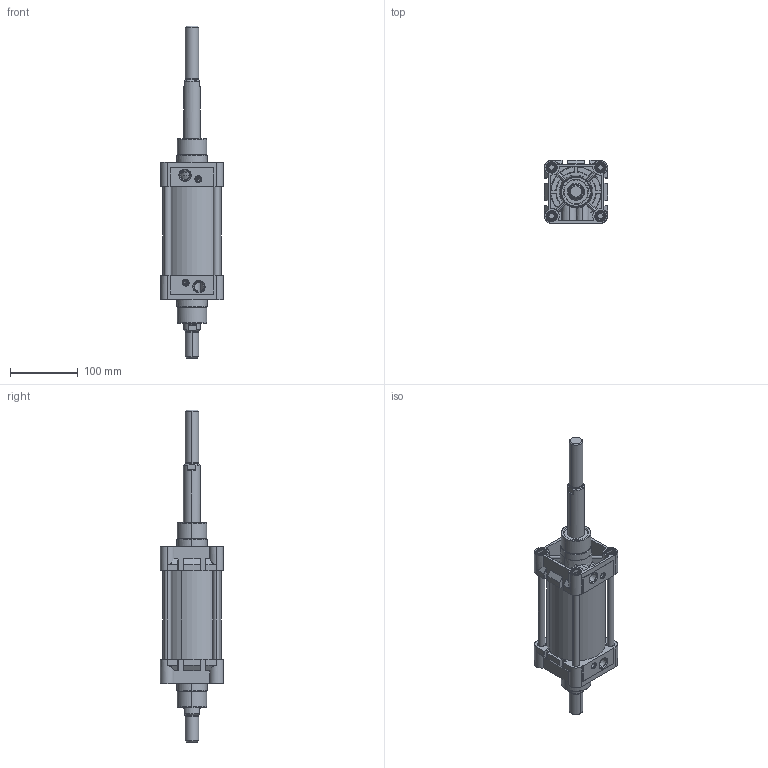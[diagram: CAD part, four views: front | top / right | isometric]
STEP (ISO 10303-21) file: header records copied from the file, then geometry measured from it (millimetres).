
FILE_DESCRIPTION (( 'STEP AP203' ), '1' );
FILE_NAME ('TDNC80X75CIFTMILLI-STROK AYARLI-CYLINDER.STEP', '2015-03-30T13:51:36', ( 'user' ), ( '' ), 'SwSTEP 2.0', 'SolidWorks 2013', '' );
FILE_SCHEMA (( 'CONFIG_CONTROL_DESIGN' ));
Length unit declared in the file: millimetre
Products named in the file (8): ORTA PÝSTON 80 ÇÝFT MÝLLÝ; Piston Mili 80x75; CIVATA 80; TDNC 80x75 SAPLAMA; TDNC 80x75 BORU; SAPLAMALI M尳 STROK AYARLI 80x75; TDNC80X75CIFTMILLI-STROK AYARLI-CYLINDER; 烰 KAPAK  80
Assembly tree (18 placements, depth 2):
  TDNC80X75CIFTMILLI-STROK AYARLI-CYLINDER
    烰 KAPAK  80  x2
    ORTA PÝSTON 80 ÇÝFT MÝLLÝ
    Piston Mili 80x75
    CIVATA 80  x8
    TDNC 80x75 SAPLAMA  x4
    TDNC 80x75 BORU
    SAPLAMALI M尳 STROK AYARLI 80x75
Bounding box: 93 x 93.3 x 490 mm (x, y, z)
Volume: 852181 mm3; surface area: 350057 mm2
Topology: 18 solids, 20 shells, 1324 faces, 3358 edges, 2122 vertices
Faces by surface type: plane 466, cylinder 464, cone 248, bspline 130, torus 16
Entity records: 29765 total; most frequent: CARTESIAN_POINT 13935, ORIENTED_EDGE 3348, DIRECTION 2601, EDGE_CURVE 1674, VERTEX_POINT 1069, AXIS2_PLACEMENT_3D 982, EDGE_LOOP 729, FACE_OUTER_BOUND 659
